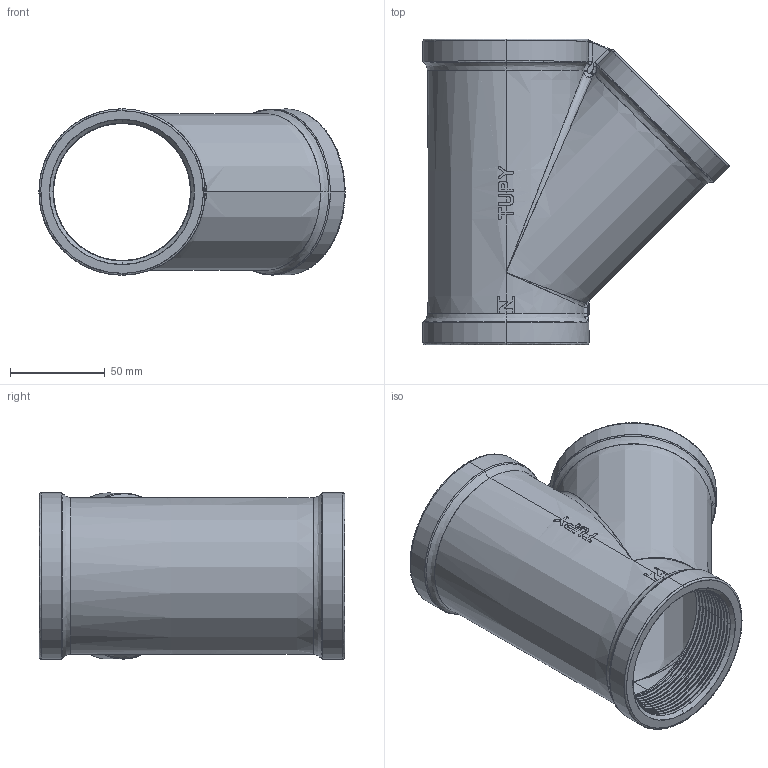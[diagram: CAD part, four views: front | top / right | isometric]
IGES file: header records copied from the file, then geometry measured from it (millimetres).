
Start section: SolidWorks IGES file using analytic representation for surfaces
Global section: file name: C:\Users\Joel Rosa\Desktop\Tubulação\12-54-XXX\12-54-011.IGS; native system: SolidWorks 2011; preprocessor: SolidWorks 2011; author: Joel Rosa; date: 121213.024109; units: millimetre
Bounding box: 161.33 x 161 x 87.6 mm (x, y, z)
Surface area: 123037.7 mm2 (no closed solid volume)
Topology: 0 solids, 0 shells, 565 faces, 4825 edges, 4818 vertices
Faces by surface type: bspline 372, revolution 193
